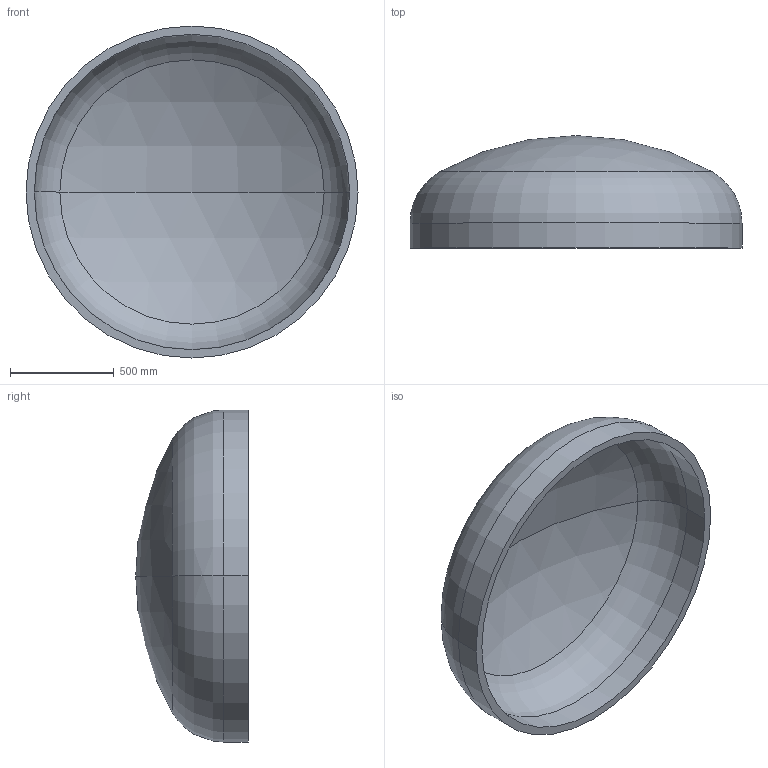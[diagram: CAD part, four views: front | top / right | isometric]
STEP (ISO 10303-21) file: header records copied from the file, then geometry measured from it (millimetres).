
FILE_DESCRIPTION (( 'STEP AP203' ), '1' );
FILE_NAME ('DIN 28013 Korbbogenform_-_Boden DIN 28013 - 1600 x 120 - I - s=40.step', '2016-07-01T11:15:38', ( '' ), ( '' ), 'SwSTEP 2.0', 'SolidWorks 2013', '' );
FILE_SCHEMA (( 'CONFIG_CONTROL_DESIGN' ));
Length unit declared in the file: millimetre
Products named in the file (1): DIN 28013 Korbbogenform_-_Boden DIN 28013 - 1600 x 120 - I - s=40
Bounding box: 1600 x 542.23 x 1600 mm (x, y, z)
Volume: 131195885.2 mm3; surface area: 6759178.7 mm2
Topology: 1 solids, 1 shells, 13 faces, 24 edges, 14 vertices
Faces by surface type: torus 4, cylinder 4, sphere 4, plane 1
Entity records: 407 total; most frequent: DIRECTION 72, CARTESIAN_POINT 52, ORIENTED_EDGE 48, AXIS2_PLACEMENT_3D 34, EDGE_CURVE 24, CIRCLE 20, EDGE_LOOP 14, VERTEX_POINT 14
